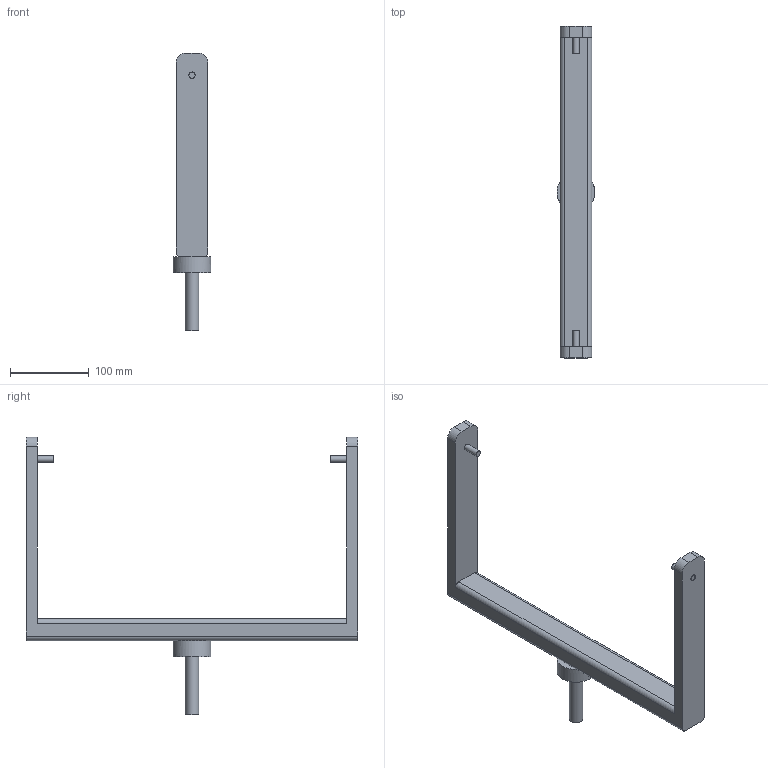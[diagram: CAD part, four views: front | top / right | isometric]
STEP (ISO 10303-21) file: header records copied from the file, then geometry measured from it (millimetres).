
FILE_DESCRIPTION(('Open CASCADE Model'),'2;1');
FILE_NAME('Open CASCADE Shape Model','2026-10-17T21:01:28',('Author'),( 'Open CASCADE'),'Open CASCADE STEP processor 7.9','Open CASCADE 7.9' ,'Unknown');
FILE_SCHEMA(('AUTOMOTIVE_DESIGN { 1 0 10303 214 1 1 1 1 }'));
Length unit declared in the file: millimetre
Products named in the file (5): TARGET_YOKE; yaw_yoke_printed; pitch_pin_py_316; pitch_pin_ny_316; yaw_shaft_316
Assembly tree (4 placements, depth 2):
  TARGET_YOKE
    yaw_yoke_printed
    pitch_pin_py_316
    pitch_pin_ny_316
    yaw_shaft_316
Bounding box: 48 x 420 x 352 mm (x, y, z)
Volume: 768494.3 mm3; surface area: 119468.6 mm2
Topology: 4 solids, 4 shells, 36 faces, 77 edges, 50 vertices
Faces by surface type: plane 21, cylinder 15
Full cylindrical faces by diameter (mm): 8 x4, 17 x2, 48 x1
Entity records: 2131 total; most frequent: CARTESIAN_POINT 392, DIRECTION 332, LINE 159, VECTOR 159, ORIENTED_EDGE 154, PCURVE 154, DEFINITIONAL_REPRESENTATION 154, EDGE_CURVE 77
